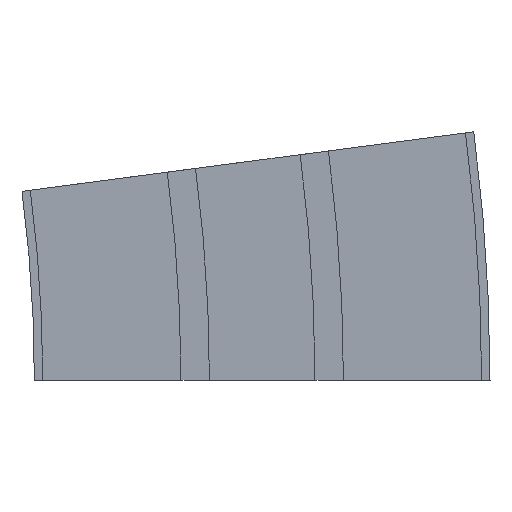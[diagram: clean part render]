
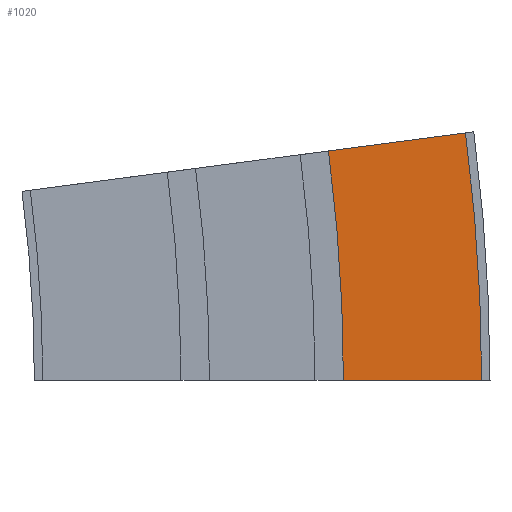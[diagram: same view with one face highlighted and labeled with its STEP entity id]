
A CAD part, left-side view. The second image highlights one B-rep face of the part: STEP entity #1020.
In plain terms, the highlighted planar face has unit normal (-1, 0, 0).
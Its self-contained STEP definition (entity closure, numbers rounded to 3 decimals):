
#19 = CARTESIAN_POINT ( 'NONE',  ( -325.25, -60.662, 73.813 ) ) ;
#96 = CARTESIAN_POINT ( 'NONE',  ( -325.25, -24.25, 0. ) ) ;
#99 = CARTESIAN_POINT ( 'NONE',  ( -325.25, -19.765, 68.428 ) ) ;
#104 = DIRECTION ( 'NONE',  ( 0., -1., 0. ) ) ;
#105 = DIRECTION ( 'NONE',  ( 0., -0.991, 0.131 ) ) ;
#108 = CARTESIAN_POINT ( 'NONE',  ( -325.25, 500., 0. ) ) ;
#109 = DIRECTION ( 'NONE',  ( 1., 0., 0. ) ) ;
#110 = DIRECTION ( 'NONE',  ( 0., 0., -1. ) ) ;
#117 = CARTESIAN_POINT ( 'NONE',  ( -325.25, 500., 0. ) ) ;
#118 = DIRECTION ( 'NONE',  ( 1., 0., 0. ) ) ;
#119 = DIRECTION ( 'NONE',  ( 0., 0., -1. ) ) ;
#146 = CARTESIAN_POINT ( 'NONE',  ( -325.25, -24.25, 0. ) ) ;
#153 = CARTESIAN_POINT ( 'NONE',  ( -325.25, -65.5, 0. ) ) ;
#158 = CARTESIAN_POINT ( 'NONE',  ( -325.25, -19.765, 68.428 ) ) ;
#278 = ORIENTED_EDGE ( 'NONE', *, *, #888, .F. ) ;
#279 = ORIENTED_EDGE ( 'NONE', *, *, #887, .F. ) ;
#280 = ORIENTED_EDGE ( 'NONE', *, *, #892, .T. ) ;
#281 = ORIENTED_EDGE ( 'NONE', *, *, #886, .T. ) ;
#324 = EDGE_LOOP ( 'NONE', ( #278, #279, #280, #281 ) ) ;
#441 = FACE_OUTER_BOUND ( 'NONE', #324, .T. ) ;
#590 = VERTEX_POINT ( 'NONE', #146 ) ;
#597 = VERTEX_POINT ( 'NONE', #153 ) ;
#602 = VERTEX_POINT ( 'NONE', #158 ) ;
#604 = VERTEX_POINT ( 'NONE', #19 ) ;
#778 = LINE ( 'NONE', #99, #786 ) ;
#782 = LINE ( 'NONE', #96, #784 ) ;
#784 = VECTOR ( 'NONE', #104, 1000. ) ;
#785 = CIRCLE ( 'NONE', #941, 565.5 ) ;
#786 = VECTOR ( 'NONE', #105, 1000. ) ;
#792 = CIRCLE ( 'NONE', #942, 524.25 ) ;
#819 = CARTESIAN_POINT ( 'NONE',  ( -325.25, -19.765, 68.428 ) ) ;
#820 = PLANE ( 'NONE',  #981 ) ;
#821 = DIRECTION ( 'NONE',  ( 1., 0., 0. ) ) ;
#822 = DIRECTION ( 'NONE',  ( 0., 0., -1. ) ) ;
#886 = EDGE_CURVE ( 'NONE', #590, #597, #782, .T. ) ;
#887 = EDGE_CURVE ( 'NONE', #602, #604, #778, .T. ) ;
#888 = EDGE_CURVE ( 'NONE', #604, #597, #785, .T. ) ;
#892 = EDGE_CURVE ( 'NONE', #602, #590, #792, .T. ) ;
#941 = AXIS2_PLACEMENT_3D ( 'NONE', #108, #109, #110 ) ;
#942 = AXIS2_PLACEMENT_3D ( 'NONE', #117, #118, #119 ) ;
#981 = AXIS2_PLACEMENT_3D ( 'NONE', #819, #821, #822 ) ;
#1020 = ADVANCED_FACE ( 'NONE', ( #441 ), #820, .F. ) ;
